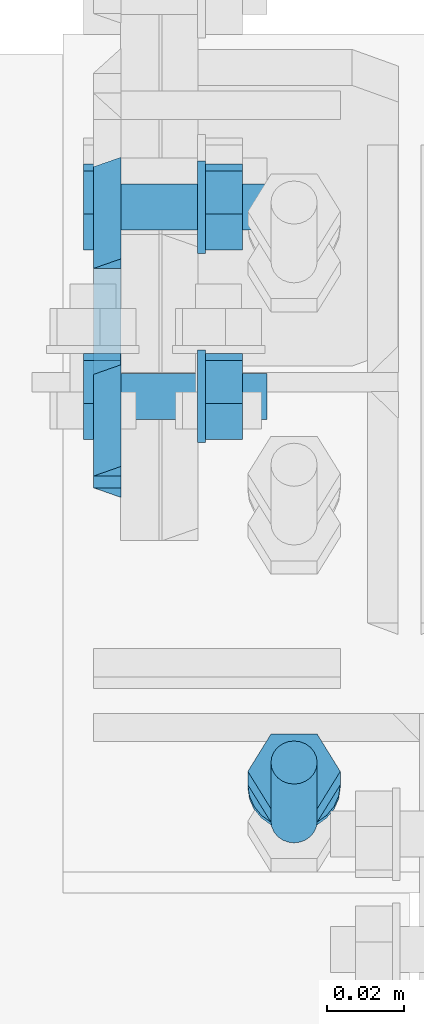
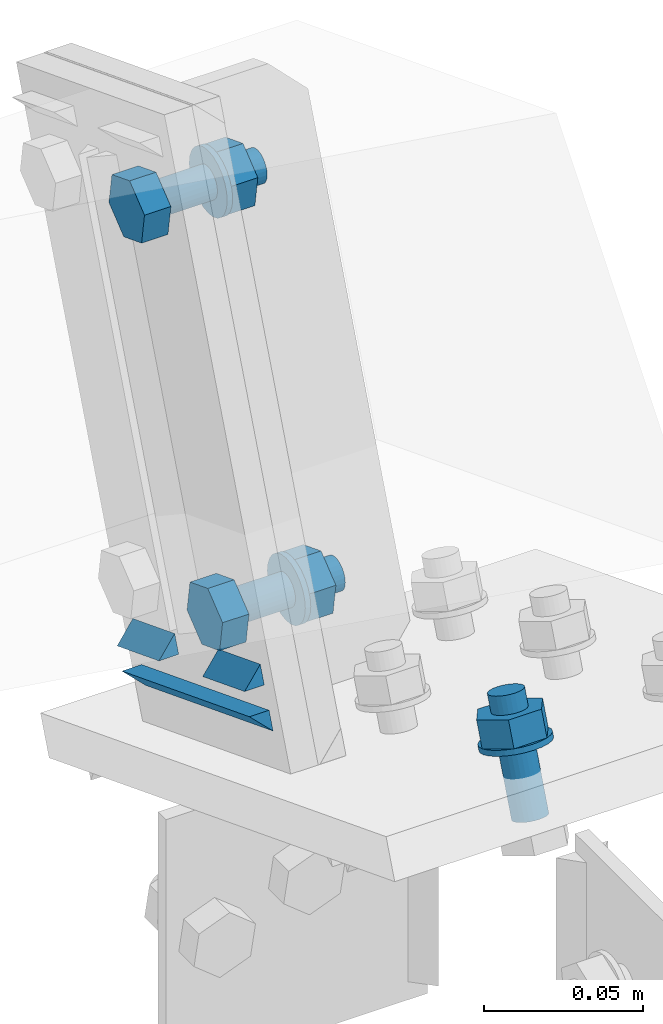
# One storey, part 70 of 72: 11 mechanical fasteners, 6 fasteners.
"""IFC4 building model written with IfcOpenShell, lengths in metres."""

from ifc_helpers import new_model, si_unit, frame, origin_with_axes, place, context, project, spatial, polyline, outline, extrude, type_object, element, save


model = new_model("IFC4")

# Units and contexts
model_context = context("Model", 3, precision=1e-05, world=origin_with_axes())
ifc_project = project(units=[si_unit("LENGTHUNIT", "METRE"), si_unit("AREAUNIT", "SQUARE_METRE"), si_unit("VOLUMEUNIT", "CUBIC_METRE"), si_unit("MASSUNIT", "GRAM", prefix="KILO"), si_unit("TIMEUNIT", "SECOND"), si_unit("PLANEANGLEUNIT", "RADIAN"), si_unit("SOLIDANGLEUNIT", "STERADIAN"), si_unit("THERMODYNAMICTEMPERATUREUNIT", "DEGREE_CELSIUS")], contexts=[model_context])

# Site, building, storey
placement_1 = place(None, origin_with_axes())
site = spatial("IfcSite", under=ifc_project, at=placement_1, Name="Italia", CompositionType="ELEMENT")
building = spatial("IfcBuilding", under=site, at=placement_1, Name="Uffici", CompositionType="ELEMENT")
storey = spatial("IfcBuildingStorey", under=building, at=placement_1, Name="Storey 0", CompositionType="ELEMENT", Elevation=0.0)

# Mechanical fasteners
mechanical_fastener_type_1 = type_object("IfcMechanicalFastenerType", Name="Collegamento 0210_0110", PredefinedType="BOLT")
placement_2 = place(placement_1, origin_with_axes())
mechanical_fastener_1_placement = place(placement_2, origin_with_axes())
element("IfcMechanicalFastener", 1, at=mechanical_fastener_1_placement, inside=storey, type_object=mechanical_fastener_type_1, Name="Collegamento 0210_0110", NominalDiameter=0.012, context=model_context, shape_type="SweptSolid", body=[
    extrude(outline(polyline([(0.0, 0.0), (-0.000204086, -0.00155258), (-0.000802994, -0.00300026), (-0.00175667, -0.0042429), (-0.00299931, -0.00519609), (-0.00444698, -0.00579548), (-0.00599957, -0.00600004), (-0.00755215, -0.00579548), (-0.00899982, -0.00519609), (-0.0102425, -0.0042429), (-0.0111961, -0.00300026), (-0.011795, -0.00155258), (-0.0119991, 0.0), (-0.011795, 0.00155258), (-0.0111961, 0.00299978), (-0.0102425, 0.00424242), (-0.00899982, 0.00519609), (-0.00755215, 0.00579548), (-0.00599957, 0.00600004), (-0.00444698, 0.00579548), (-0.00299931, 0.00519609), (-0.00175667, 0.00424242), (-0.000802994, 0.00299978), (-0.000204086, 0.00155258), (0.0, 0.0)])), frame((13.946, 4.71627, 5.20445), z_axis=(0.0, -0.361519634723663, -0.932364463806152), x_axis=(1.0, 0.0, 0.0)), (0.0, 0.0, 1.0), 0.0421994),
])
mechanical_fastener_type_2 = type_object("IfcMechanicalFastenerType", Name="Collegamento 0210_0110", PredefinedType="BOLT")
mechanical_fastener_2_placement = place(placement_2, origin_with_axes())
element("IfcMechanicalFastener", 2, at=mechanical_fastener_2_placement, inside=storey, type_object=mechanical_fastener_type_2, Name="Collegamento 0210_0110", NominalDiameter=0.0119997, context=model_context, shape_type="SweptSolid", body=[
    extrude(outline(polyline([(0.0, 0.0), (0.0120001, 0.0), (0.0180006, -0.0103922), (0.0120001, -0.0207846), (0.0, -0.0207846), (-0.00599957, -0.0103922), (0.0, 0.0)])), frame((13.934, 4.70427, 5.20224), z_axis=(0.0, -0.361520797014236, -0.932364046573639), x_axis=(1.0, 0.0, 0.0)), (0.0, 0.0, 1.0), 0.0095995),
])
mechanical_fastener_type_3 = type_object("IfcMechanicalFastenerType", Name="Collegamento 0210_0110", PredefinedType="BOLT")
mechanical_fastener_3_placement = place(placement_2, origin_with_axes())
element("IfcMechanicalFastener", 3, at=mechanical_fastener_3_placement, inside=storey, type_object=mechanical_fastener_type_3, Name="Collegamento 0210_0110", NominalDiameter=0.024, context=model_context, shape_type="SweptSolid", body=[
    extrude(outline(polyline([(0.0, 0.0), (-0.000409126, -0.00310636), (-0.00160789, -0.00600028), (-0.00351524, -0.00848508), (-0.00600052, -0.0103924), (-0.00889397, -0.0115912), (-0.0120001, -0.0120003), (-0.0151062, -0.0115912), (-0.0179996, -0.0103924), (-0.0204849, -0.00848508), (-0.0223923, -0.00600028), (-0.023591, -0.00310636), (-0.0240002, 0.0), (-0.023591, 0.00310588), (-0.0223923, 0.0059998), (-0.0204849, 0.00848508), (-0.0179996, 0.010392), (-0.0151062, 0.011591), (-0.0120001, 0.0120001), (-0.00889397, 0.011591), (-0.00600052, 0.010392), (-0.00351524, 0.00848508), (-0.00160789, 0.0059998), (-0.000409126, 0.00310588), (0.0, 0.0)])), frame((13.952, 4.71049, 5.18954), z_axis=(0.0, -0.361502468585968, -0.932371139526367), x_axis=(1.0, 0.0, 0.0)), (0.0, 0.0, 1.0), 0.00199967),
])

# Fasteners
fastener_type_1 = type_object("IfcFastenerType", Name="Collegamento 0210_0209", PredefinedType="WELD")
fastener_1_placement = place(placement_2, origin_with_axes())
element("IfcFastener", 4, at=fastener_1_placement, inside=storey, type_object=fastener_type_1, Name="Collegamento 0210_0209", context=model_context, shape_type="SweptSolid", body=[
    extrude(outline(polyline([(0.0, 0.0), (0.00717354, -0.00695848), (0.0, -0.00695848), (0.0, 0.0)])), frame((13.8951, 4.84703, 5.16256), z_axis=(0.0, 0.932390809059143, -0.361451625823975), x_axis=(-1.0, 0.0, 0.0)), (0.0, 0.0, 1.0), 0.0283001),
])
fastener_type_2 = type_object("IfcFastenerType", Name="Collegamento 0210_0209", PredefinedType="WELD")
fastener_2_placement = place(placement_2, origin_with_axes())
element("IfcFastener", 5, at=fastener_2_placement, inside=storey, type_object=fastener_type_2, Name="Collegamento 0210_0209", context=model_context, shape_type="SweptSolid", body=[
    extrude(outline(polyline([(0.0, 0.0), (-0.00717354, 0.00695848), (0.0, 0.00695848), (0.0, 0.0)])), frame((13.8951, 4.86535, 5.13152), z_axis=(0.0, -0.932385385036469, 0.361465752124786), x_axis=(1.0, 0.0, 0.0)), (0.0, 0.0, 1.0), 0.0861),
])
fastener_type_3 = type_object("IfcFastenerType", Name="Collegamento 0210_0209", PredefinedType="WELD")
fastener_3_placement = place(placement_2, origin_with_axes())
element("IfcFastener", 6, at=fastener_3_placement, inside=storey, type_object=fastener_type_3, Name="Collegamento 0210_0209", context=model_context, shape_type="SweptSolid", body=[
    extrude(outline(polyline([(0.0, 0.0), (0.00717354, -0.00695801), (0.0, -0.00695801), (0.0, 0.0)])), frame((13.8951, 4.79314, 5.18345), z_axis=(0.0, 0.932381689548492, -0.361475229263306), x_axis=(-1.0, 0.0, 0.0)), (0.0, 0.0, 1.0), 0.0283009),
])
fastener_type_4 = type_object("IfcFastenerType", Name="Collegamento 0210_0209", PredefinedType="WELD")
fastener_4_placement = place(placement_2, origin_with_axes())
element("IfcFastener", 7, at=fastener_4_placement, inside=storey, type_object=fastener_type_4, Name="Collegamento 0210_0209", context=model_context, shape_type="SweptSolid", body=[
    extrude(outline(polyline([(0.0, 0.0), (0.00717354, -0.00695848), (0.0, -0.00695848), (0.0, 0.0)])), frame((13.8951, 4.84703, 5.16256), z_axis=(0.0, 0.932390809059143, -0.361451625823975), x_axis=(-1.0, 0.0, 0.0)), (0.0, 0.0, 1.0), 0.0283001),
])
fastener_type_5 = type_object("IfcFastenerType", Name="Collegamento 0210_0209", PredefinedType="WELD")
fastener_5_placement = place(placement_2, origin_with_axes())
element("IfcFastener", 8, at=fastener_5_placement, inside=storey, type_object=fastener_type_5, Name="Collegamento 0210_0209", context=model_context, shape_type="SweptSolid", body=[
    extrude(outline(polyline([(0.0, 0.0), (-0.00717354, 0.00695848), (0.0, 0.00695848), (0.0, 0.0)])), frame((13.8951, 4.86535, 5.13152), z_axis=(0.0, -0.932385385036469, 0.361465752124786), x_axis=(1.0, 0.0, 0.0)), (0.0, 0.0, 1.0), 0.0861),
])
fastener_type_6 = type_object("IfcFastenerType", Name="Collegamento 0210_0209", PredefinedType="WELD")
fastener_6_placement = place(placement_2, origin_with_axes())
element("IfcFastener", 9, at=fastener_6_placement, inside=storey, type_object=fastener_type_6, Name="Collegamento 0210_0209", context=model_context, shape_type="SweptSolid", body=[
    extrude(outline(polyline([(0.0, 0.0), (0.00717354, -0.00695801), (0.0, -0.00695801), (0.0, 0.0)])), frame((13.8951, 4.79314, 5.18345), z_axis=(0.0, 0.932381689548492, -0.361475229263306), x_axis=(-1.0, 0.0, 0.0)), (0.0, 0.0, 1.0), 0.0283009),
])

# Mechanical fasteners
mechanical_fastener_type_4 = type_object("IfcMechanicalFastenerType", Name="Collegamento 0210_0209", PredefinedType="BOLT")
mechanical_fastener_4_placement = place(placement_2, origin_with_axes())
element("IfcMechanicalFastener", 10, at=mechanical_fastener_4_placement, inside=storey, type_object=mechanical_fastener_type_4, Name="Collegamento 0210_0209", NominalDiameter=0.0119998, context=model_context, shape_type="SweptSolid", body=[
    extrude(outline(polyline([(0.0, 0.0), (-0.0111885, -0.00433731), (-0.0205393, 0.00318336), (-0.0187011, 0.0150418), (-0.00751257, 0.0193796), (0.00183821, 0.0118585), (0.0, 0.0)])), frame((13.895, 4.80195, 5.18668), z_axis=(-1.0, 0.0, 0.0), x_axis=(0.0, -1.0, 0.0)), (0.0, 0.0, 1.0), 0.00959969),
])
mechanical_fastener_type_5 = type_object("IfcMechanicalFastenerType", Name="Collegamento 0210_0209", PredefinedType="BOLT")
mechanical_fastener_5_placement = place(placement_2, origin_with_axes())
element("IfcMechanicalFastener", 11, at=mechanical_fastener_5_placement, inside=storey, type_object=mechanical_fastener_type_5, Name="Collegamento 0210_0209", NominalDiameter=0.012, context=model_context, shape_type="SweptSolid", body=[
    extrude(outline(polyline([(0.0, 0.0), (-0.000204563, -0.00155306), (-0.000803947, -0.00299978), (-0.00175762, -0.00424242), (-0.00300026, -0.00519609), (-0.00444698, -0.00579548), (-0.00600004, -0.00600004), (-0.0075531, -0.00579548), (-0.00899982, -0.00519609), (-0.0102425, -0.00424242), (-0.0111961, -0.00299978), (-0.0117955, -0.00155306), (-0.0120001, 0.0), (-0.0117955, 0.00155306), (-0.0111961, 0.00299978), (-0.0102425, 0.00424242), (-0.00899982, 0.00519609), (-0.0075531, 0.00579548), (-0.00600004, 0.00600004), (-0.00444698, 0.00579548), (-0.00300026, 0.00519609), (-0.00175762, 0.00424242), (-0.000803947, 0.00299978), (-0.000204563, 0.00155306), (0.0, 0.0)])), frame((13.933, 4.8053, 5.1942), z_axis=(-1.0, 0.0, 0.0), x_axis=(0.0, -1.0, 0.0)), (0.0, 0.0, 1.0), 0.0380001),
])
mechanical_fastener_type_6 = type_object("IfcMechanicalFastenerType", Name="Collegamento 0210_0209", PredefinedType="BOLT")
mechanical_fastener_6_placement = place(placement_2, origin_with_axes())
element("IfcMechanicalFastener", 12, at=mechanical_fastener_6_placement, inside=storey, type_object=mechanical_fastener_type_6, Name="Collegamento 0210_0209", NominalDiameter=0.0119998, context=model_context, shape_type="SweptSolid", body=[
    extrude(outline(polyline([(0.0, 0.0), (-0.0111885, -0.00433731), (-0.0205393, 0.00318336), (-0.0187011, 0.0150418), (-0.00751257, 0.0193796), (0.00183821, 0.0118585), (0.0, 0.0)])), frame((13.9266, 4.80195, 5.18668), z_axis=(-1.0, 0.0, 0.0), x_axis=(0.0, -1.0, 0.0)), (0.0, 0.0, 1.0), 0.00959969),
])
mechanical_fastener_type_7 = type_object("IfcMechanicalFastenerType", Name="Collegamento 0210_0209", PredefinedType="BOLT")
mechanical_fastener_7_placement = place(placement_2, origin_with_axes())
element("IfcMechanicalFastener", 13, at=mechanical_fastener_7_placement, inside=storey, type_object=mechanical_fastener_type_7, Name="Collegamento 0210_0209", NominalDiameter=0.024, context=model_context, shape_type="SweptSolid", body=[
    extrude(outline(polyline([(0.0, 0.0), (-0.000409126, -0.00310564), (-0.00160789, -0.00600004), (-0.00351477, -0.00848532), (-0.00600004, -0.0103922), (-0.00889444, -0.011591), (-0.0120001, -0.0120001), (-0.0151057, -0.011591), (-0.0180001, -0.0103922), (-0.0204854, -0.00848532), (-0.0223923, -0.00600004), (-0.023591, -0.00310564), (-0.0240002, 0.0), (-0.023591, 0.00310564), (-0.0223923, 0.00600004), (-0.0204854, 0.00848532), (-0.0180001, 0.0103922), (-0.0151057, 0.011591), (-0.0120001, 0.0120001), (-0.00889444, 0.011591), (-0.00600004, 0.0103922), (-0.00351477, 0.00848532), (-0.00160789, 0.00600004), (-0.000409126, 0.00310564), (0.0, 0.0)])), frame((13.917, 4.7993, 5.1942), z_axis=(-1.0, 0.0, 0.0), x_axis=(0.0, -1.0, 0.0)), (0.0, 0.0, 1.0), 0.00199986),
])
mechanical_fastener_type_8 = type_object("IfcMechanicalFastenerType", Name="Collegamento 0210_0209", PredefinedType="BOLT")
mechanical_fastener_8_placement = place(placement_2, origin_with_axes())
element("IfcMechanicalFastener", 14, at=mechanical_fastener_8_placement, inside=storey, type_object=mechanical_fastener_type_8, Name="Collegamento 0210_0209", NominalDiameter=0.0119998, context=model_context, shape_type="SweptSolid", body=[
    extrude(outline(polyline([(0.0, 0.0), (-0.0111885, -0.00433731), (-0.0205393, 0.00318336), (-0.0187016, 0.0150418), (-0.00751305, 0.0193791), (0.00183773, 0.0118585), (0.0, 0.0)])), frame((13.895, 4.85111, 5.31349), z_axis=(-1.0, 0.0, 0.0), x_axis=(0.0, -1.0, 0.0)), (0.0, 0.0, 1.0), 0.00959969),
])
mechanical_fastener_type_9 = type_object("IfcMechanicalFastenerType", Name="Collegamento 0210_0209", PredefinedType="BOLT")
mechanical_fastener_9_placement = place(placement_2, origin_with_axes())
element("IfcMechanicalFastener", 15, at=mechanical_fastener_9_placement, inside=storey, type_object=mechanical_fastener_type_9, Name="Collegamento 0210_0209", NominalDiameter=0.012, context=model_context, shape_type="SweptSolid", body=[
    extrude(outline(polyline([(0.0, 0.0), (-0.000204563, -0.00155306), (-0.000803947, -0.00299978), (-0.00175762, -0.00424242), (-0.00300026, -0.00519609), (-0.00444698, -0.00579548), (-0.00600004, -0.00600004), (-0.0075531, -0.00579548), (-0.00899982, -0.00519609), (-0.0102425, -0.00424242), (-0.0111961, -0.00299978), (-0.0117955, -0.00155306), (-0.0120001, 0.0), (-0.0117955, 0.00155306), (-0.0111961, 0.00299978), (-0.0102425, 0.00424242), (-0.00899982, 0.00519609), (-0.0075531, 0.00579548), (-0.00600004, 0.00600004), (-0.00444698, 0.00579548), (-0.00300026, 0.00519609), (-0.00175762, 0.00424242), (-0.000803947, 0.00299978), (-0.000204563, 0.00155306), (0.0, 0.0)])), frame((13.933, 4.85446, 5.32101), z_axis=(-1.0, 0.0, 0.0), x_axis=(0.0, -1.0, 0.0)), (0.0, 0.0, 1.0), 0.0380001),
])
mechanical_fastener_type_10 = type_object("IfcMechanicalFastenerType", Name="Collegamento 0210_0209", PredefinedType="BOLT")
mechanical_fastener_10_placement = place(placement_2, origin_with_axes())
element("IfcMechanicalFastener", 16, at=mechanical_fastener_10_placement, inside=storey, type_object=mechanical_fastener_type_10, Name="Collegamento 0210_0209", NominalDiameter=0.0119998, context=model_context, shape_type="SweptSolid", body=[
    extrude(outline(polyline([(0.0, 0.0), (-0.0111885, -0.00433731), (-0.0205393, 0.00318336), (-0.0187016, 0.0150418), (-0.00751305, 0.0193791), (0.00183773, 0.0118585), (0.0, 0.0)])), frame((13.9266, 4.85111, 5.31349), z_axis=(-1.0, 0.0, 0.0), x_axis=(0.0, -1.0, 0.0)), (0.0, 0.0, 1.0), 0.00959969),
])
mechanical_fastener_type_11 = type_object("IfcMechanicalFastenerType", Name="Collegamento 0210_0209", PredefinedType="BOLT")
mechanical_fastener_11_placement = place(placement_2, origin_with_axes())
element("IfcMechanicalFastener", 17, at=mechanical_fastener_11_placement, inside=storey, type_object=mechanical_fastener_type_11, Name="Collegamento 0210_0209", NominalDiameter=0.024, context=model_context, shape_type="SweptSolid", body=[
    extrude(outline(polyline([(0.0, 0.0), (-0.000409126, -0.00310564), (-0.00160789, -0.00600004), (-0.00351477, -0.00848532), (-0.00600004, -0.0103922), (-0.00889444, -0.011591), (-0.0120001, -0.0120001), (-0.0151057, -0.011591), (-0.0180001, -0.0103922), (-0.0204854, -0.00848532), (-0.0223923, -0.00600004), (-0.023591, -0.00310564), (-0.0240002, 0.0), (-0.023591, 0.00310564), (-0.0223923, 0.00600004), (-0.0204854, 0.00848532), (-0.0180001, 0.0103922), (-0.0151057, 0.011591), (-0.0120001, 0.0120001), (-0.00889444, 0.011591), (-0.00600004, 0.0103922), (-0.00351477, 0.00848532), (-0.00160789, 0.00600004), (-0.000409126, 0.00310564), (0.0, 0.0)])), frame((13.917, 4.84846, 5.32101), z_axis=(-1.0, 0.0, 0.0), x_axis=(0.0, -1.0, 0.0)), (0.0, 0.0, 1.0), 0.00199986),
])

save(model, "model.ifc")
